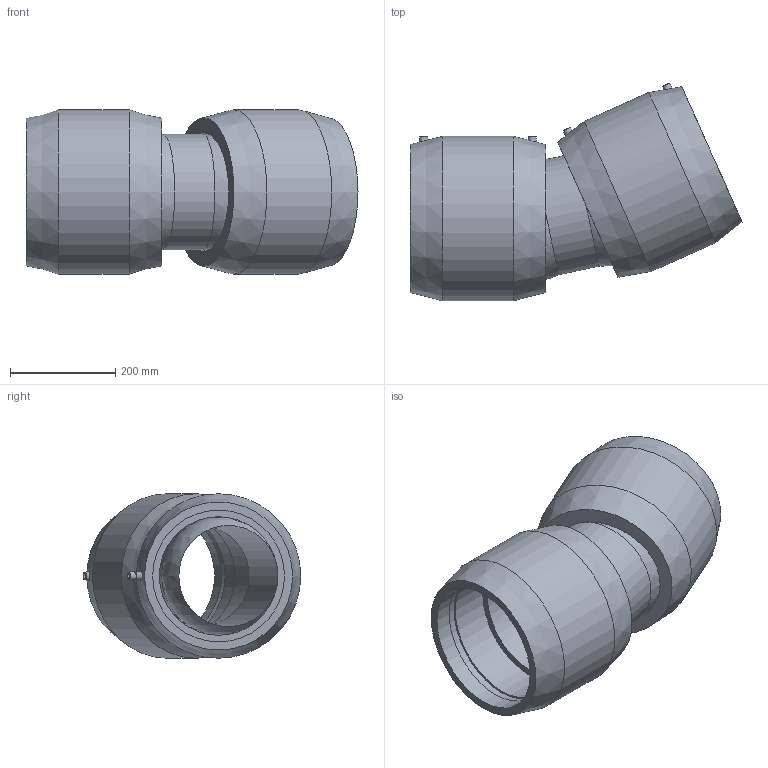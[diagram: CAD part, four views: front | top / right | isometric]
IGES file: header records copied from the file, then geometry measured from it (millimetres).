
Global section: file name: 4947C4250.ipt; native system: Autodesk Inventor 2015; preprocessor: unknown; author: KIM; date: 20190124.130453; units: millimetre
Bounding box: 629.93 x 412.84 x 312 mm (x, y, z)
Volume: 16855510.3 mm3; surface area: 1234885.2 mm2
Topology: 1 solids, 1 shells, 50 faces, 114 edges, 78 vertices
Faces by surface type: plane 20, revolution 13, cone 8, cylinder 7, sphere 2
Full cylindrical faces by diameter (mm): 4 x4, 219.018 x1, 312 x2
